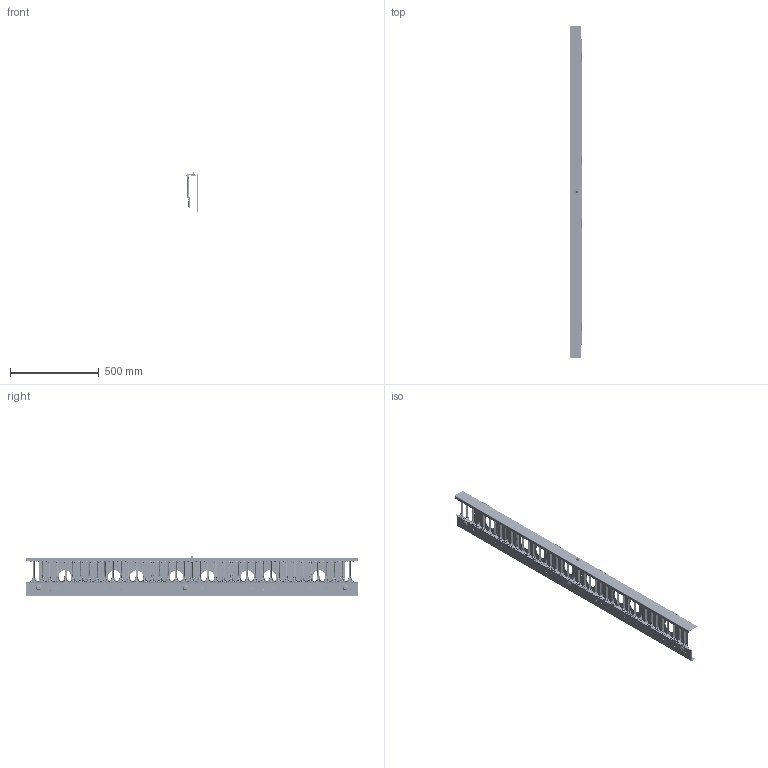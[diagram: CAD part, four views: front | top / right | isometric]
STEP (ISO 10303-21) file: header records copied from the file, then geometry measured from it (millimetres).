
FILE_DESCRIPTION (( 'STEP AP203' ), '1' );
FILE_NAME ('PVF207.STEP', '2008-08-08T12:41:12', ( '' ), ( '' ), 'SwSTEP 2.0', 'SolidWorks 2007', '' );
FILE_SCHEMA (( 'CONFIG_CONTROL_DESIGN' ));
Products named in the file (10): 87927990_87927990; 87932050_87932050; 87927989_9U; PVF207; 87932545_87932545; 87932547_87932547; 87932549_87932549; 87798861_Hinge 90°; 87932052_87932052; 87932730_87932730
Assembly tree (15 placements, depth 3):
  PVF207
    87927989_9U  x3
    87927990_87927990  x2
    87932730_87932730
    87932545_87932545
      87932547_87932547
      87798861_Hinge 90°  x4
      87932549_87932549
    87932052_87932052
    87932050_87932050
Bounding box: 67.94 x 1867.41 x 228.9 mm (x, y, z)
Volume: 2043210.7 mm3; surface area: 2062711.9 mm2
Topology: 22 solids, 22 shells, 16168 faces, 42109 edges, 25591 vertices
Faces by surface type: cylinder 4828, bspline 4605, plane 4561, torus 1521, sphere 483, cone 170
Entity records: 596394 total; most frequent: CARTESIAN_POINT 438371, ORIENTED_EDGE 36904, DIRECTION 26648, EDGE_CURVE 18452, VERTEX_POINT 11455, AXIS2_PLACEMENT_3D 9723, EDGE_LOOP 7571, ADVANCED_FACE 7219
